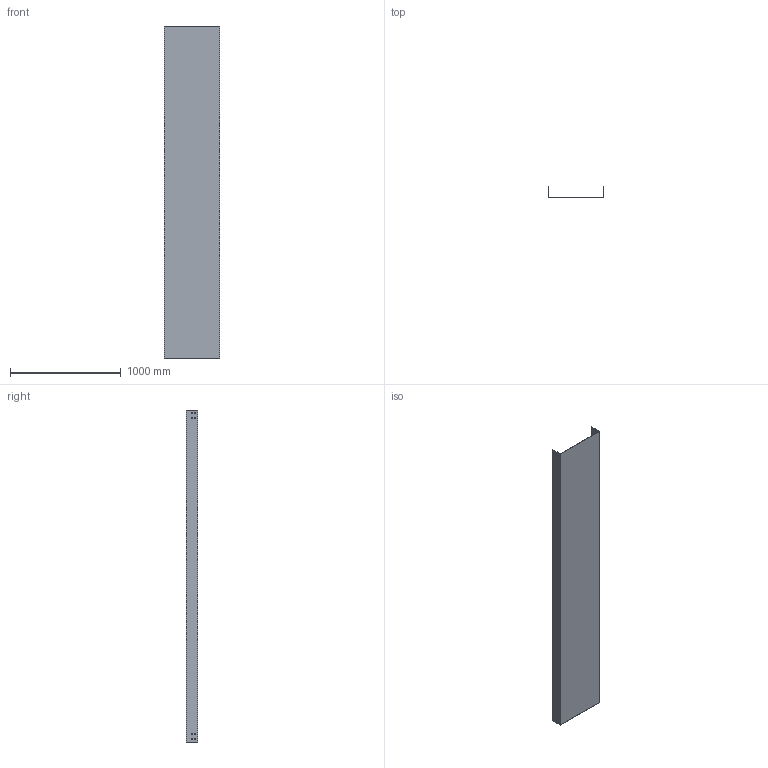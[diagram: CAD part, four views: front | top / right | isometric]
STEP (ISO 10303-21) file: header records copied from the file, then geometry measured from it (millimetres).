
FILE_DESCRIPTION (( 'STEP AP214' ), '1' );
FILE_NAME ('CC_501.step', '2025-07-16T09:04:42', ( '' ), ( '' ), 'SwSTEP 2.0', 'SolidWorks 2023', '' );
FILE_SCHEMA (( 'AUTOMOTIVE_DESIGN' ));
Length unit declared in the file: millimetre
Products named in the file (1): CC_501
Bounding box: 500 x 100 x 3000 mm (x, y, z)
Volume: 3134820 mm3; surface area: 4191667 mm2
Topology: 1 solids, 1 shells, 74 faces, 216 edges, 144 vertices
Faces by surface type: plane 74
Entity records: 2487 total; most frequent: CARTESIAN_POINT 435, ORIENTED_EDGE 432, DIRECTION 366, EDGE_CURVE 216, VECTOR 216, LINE 216, VERTEX_POINT 144, EDGE_LOOP 106
